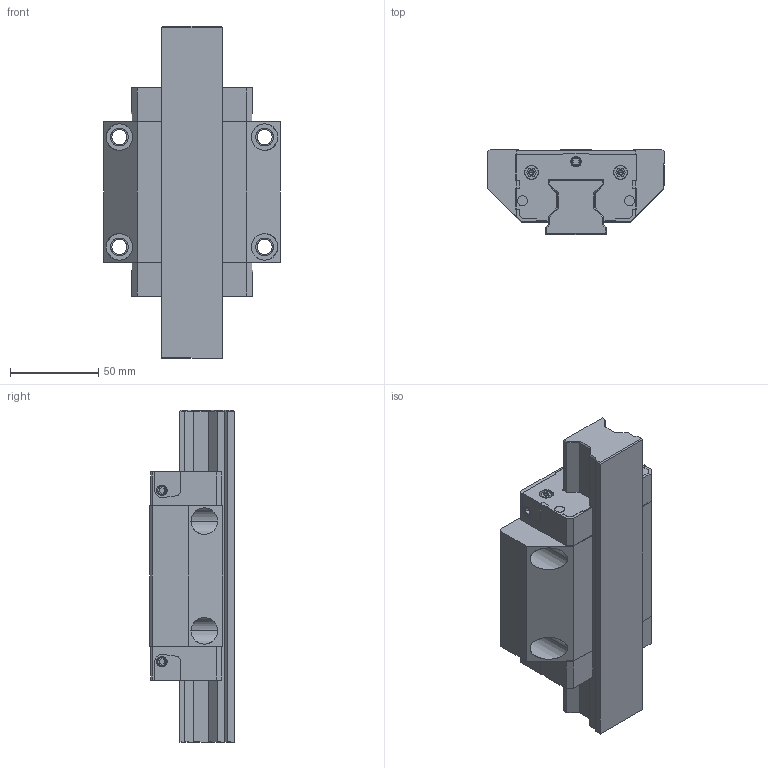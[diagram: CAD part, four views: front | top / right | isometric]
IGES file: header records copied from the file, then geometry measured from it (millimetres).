
Start section: 3D InterOp IGES (v. 2019 1.0.2), Spatial Corp. Copyright (c) 1999-2017.
Global section: file name: R1851_size35.igs; native system: Spatial Corp.; preprocessor: 3D InterOp GENERIC/IGES 3.0; author: Noname; organization: Noname; date: 20220630.112913; units: millimetre
Bounding box: 100 x 47.98 x 187.6 mm (x, y, z)
Surface area: 96833.7 mm2 (no closed solid volume)
Topology: 0 solids, 0 shells, 528 faces, 2732 edges, 2712 vertices
Faces by surface type: extrusion 332, revolution 196
